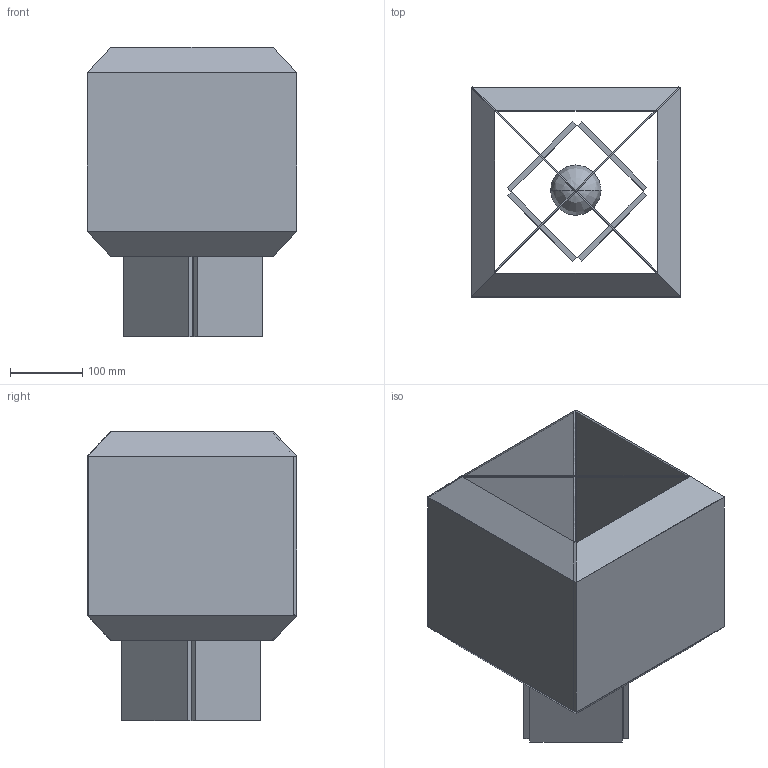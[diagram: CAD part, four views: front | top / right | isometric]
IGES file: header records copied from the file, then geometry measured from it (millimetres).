
Global section: file name: C:\Users\colombo_c\Desktop\Danese\Sito\3D mancanti\Bali table\Bali table.igs; native system: Rhinoceros ( Apr 16 2024 ); preprocessor: Trout Lake IGES 012 Apr 16 2024; date: 250625.140139; units: millimetre
Bounding box: 290 x 290.75 x 401 mm (x, y, z)
Surface area: 554565.7 mm2 (no closed solid volume)
Topology: 0 solids, 0 shells, 91 faces, 510 edges, 508 vertices
Faces by surface type: bspline 91
